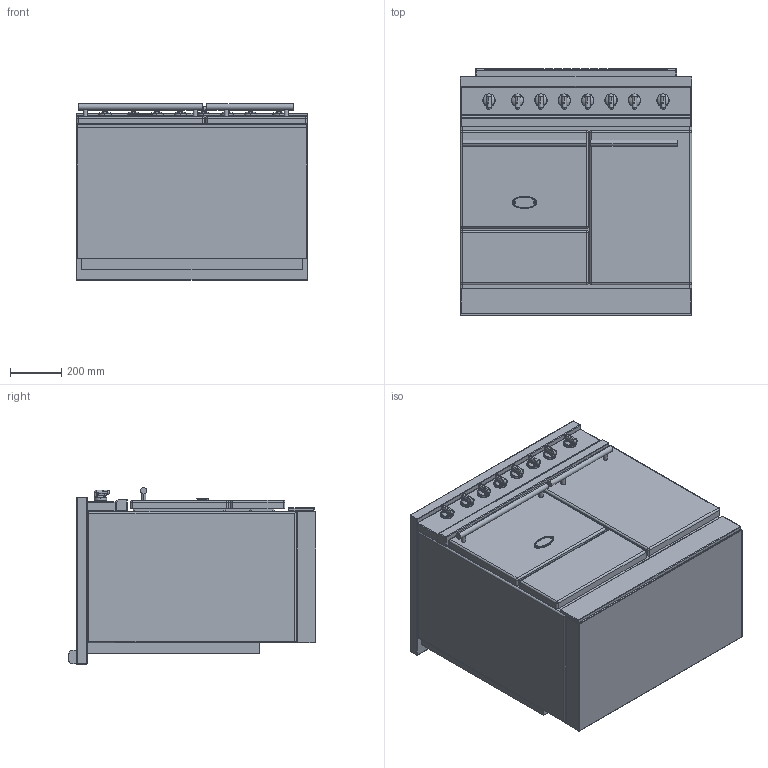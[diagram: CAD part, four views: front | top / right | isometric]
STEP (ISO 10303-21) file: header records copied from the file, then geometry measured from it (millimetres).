
FILE_DESCRIPTION((''),'2;1');
FILE_NAME('LMVI962D_ASM','2022-04-13T11:08:55',('stagiaire'),(''),'CREO PARAMETRIC BY PTC INC, 2021424','CREO PARAMETRIC BY PTC INC, 2021424','');
FILE_SCHEMA(('AP203_CONFIGURATION_CONTROLLED_3D_DESIGN_OF_MECHANICAL_PARTS_AND_ASSEMBLIES_MIM_LF { 1 0 10303 403 2 1 2 }'));
Products named in the file (12): BASE_EXPORT_BEAUNE_MODERN; 65064012; 19150009; 88064012_ASM; 65049009; 65650001; BASE_EXPORT_BEAUNE_MODERN_ASM; TABLE_900_INDUCTION; VERRE_65213057; CHEMINEE_2020_LG782_EXPORT_STEP; TABLE_900_INDUCTION_ASM; LMVI962D_ASM
Assembly tree (18 placements, depth 4):
  LMVI962D_ASM
    BASE_EXPORT_BEAUNE_MODERN_ASM
      BASE_EXPORT_BEAUNE_MODERN
      88064012_ASM  x8
        65064012
        19150009
      65049009
      65650001
    TABLE_900_INDUCTION_ASM
      TABLE_900_INDUCTION
      VERRE_65213057
      CHEMINEE_2020_LG782_EXPORT_STEP
Bounding box: 900 x 963 x 687.75 mm (x, y, z)
Volume: 485986000.3 mm3; surface area: 8068297.5 mm2
Topology: 26 solids, 26 shells, 3016 faces, 8445 edges, 5384 vertices
Faces by surface type: plane 1330, cylinder 982, sphere 262, bspline 254, extrusion 92, torus 58, cone 38
Entity records: 84363 total; most frequent: CARTESIAN_POINT 21191, ORIENTED_EDGE 11328, DIRECTION 10560, EDGE_CURVE 5664, VECTOR 4405, LINE 4313, VERTEX_POINT 3683, AXIS2_PLACEMENT_3D 3061
